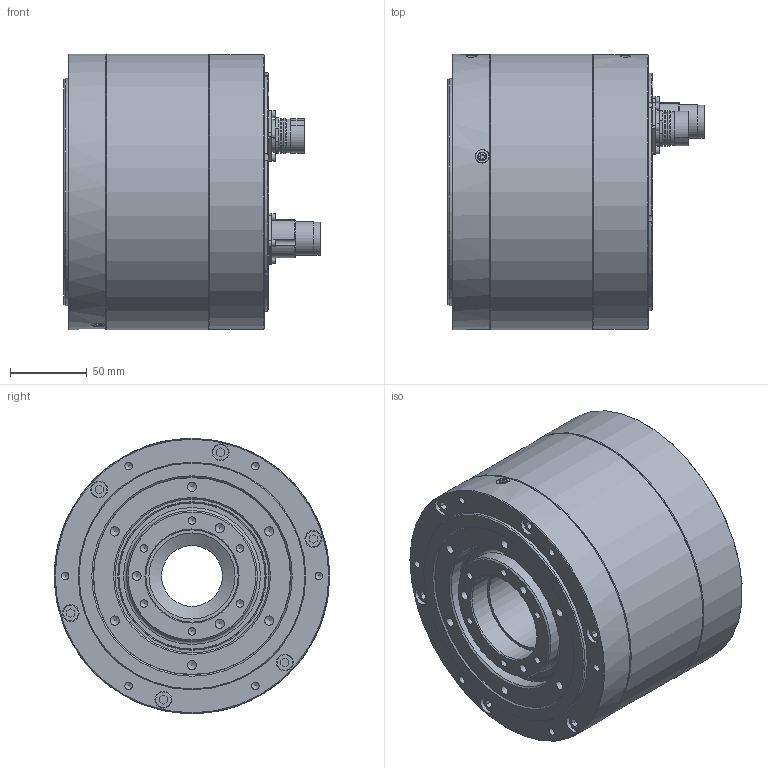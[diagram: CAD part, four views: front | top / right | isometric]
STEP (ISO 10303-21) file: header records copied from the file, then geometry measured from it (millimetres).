
FILE_DESCRIPTION( ( 'Unknown' ), '1' );
FILE_NAME( 'Q:/SKA DDR in acciaio/WEB File/SKA RT 148/3D/148CC117.stp', 'Unknown', ( 'Unknown' ), ( 'Unknown' ), 'PSStep 14.0', 'Unknown', ' ' );
FILE_SCHEMA( ( 'AUTOMOTIVE_DESIGN { 1 0 10303 214 1 1 1 1 }' ) );
Length unit declared in the file: millimetre
Products named in the file (18): Assem1; 148FP024_rev5; CN M23 PAN-POT BEGA 120 4 + 4 pin SpTcR; CN M23 PAN-SEG AEGA 139 17 pin SpTcR; 148FF049_rev5; 148VV024_rev5; 148FF050_rev5; Vite a brugola testa cil 8,8 -  M 2,5 x 8; Vite a brugola testa cil 8,8 -  M  4 x 8; Vite a brugola testa svasata 10,9 -  M  4 x 14; Vite a brugola testa cil 12,9 -  M  6 x 30; Vite a brugola testa cil 12,9 -  M  6 x 40; Anello OR 1,78 D142,11-2562-oa0; Anello OR 1,78 D142,11-2562-oa1; Anello OR 2,62 D120,33-3475-oa2; Grano senza punta M  6 x 10; 148FS062_30_rev5; 148GG072_30_rev5
Assembly tree (38 placements, depth 2):
  Assem1
    148FP024_rev5
    CN M23 PAN-POT BEGA 120 4 + 4 pin SpTcR
    CN M23 PAN-SEG AEGA 139 17 pin SpTcR
    148FF049_rev5
    148VV024_rev5
    148FF050_rev5
    Vite a brugola testa cil 8,8 -  M 2,5 x 8  x8
    Vite a brugola testa cil 8,8 -  M  4 x 8
    Vite a brugola testa svasata 10,9 -  M  4 x 14  x4
    Vite a brugola testa cil 12,9 -  M  6 x 30  x6
    Vite a brugola testa cil 12,9 -  M  6 x 40  x6
    Anello OR 1,78 D142,11-2562-oa0
    Anello OR 1,78 D142,11-2562-oa1
    Anello OR 2,62 D120,33-3475-oa2
    Grano senza punta M  6 x 10  x2
    148FS062_30_rev5
    148GG072_30_rev5
Bounding box: 167 x 179 x 179 mm (x, y, z)
Volume: 1955599.5 mm3; surface area: 424192 mm2
Topology: 38 solids, 38 shells, 930 faces, 2140 edges, 1395 vertices
Faces by surface type: plane 413, cylinder 342, cone 143, torus 24, sphere 8
Full cylindrical faces by diameter (mm): 1.5 x4, 2 x17, 2.013 x8, 2.5 x12, 2.7 x4, 2.8 x4, 3.242 x12, 3.4 x4, 4 x7, 4.134 x12, 4.5 x4, 4.7 x8, 4.917 x50, 6 x26, 6.5 x12, 6.647 x16, 7 x1, 8.5 x6, 9 x2, 10 x12, 11 x12, 16 x1, 17 x2, 19.8 x2, 20 x2, 21 x2, 21.5 x2, 22 x2, 23 x2, 39.5 x1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
Entity records: 20646 total; most frequent: CARTESIAN_POINT 3273, DIRECTION 2958, ORIENTED_EDGE 1992, AXIS2_PLACEMENT_3D 1324, EDGE_LOOP 1211, EDGE_CURVE 996, FACE_OUTER_BOUND 918, VERTEX_POINT 891
